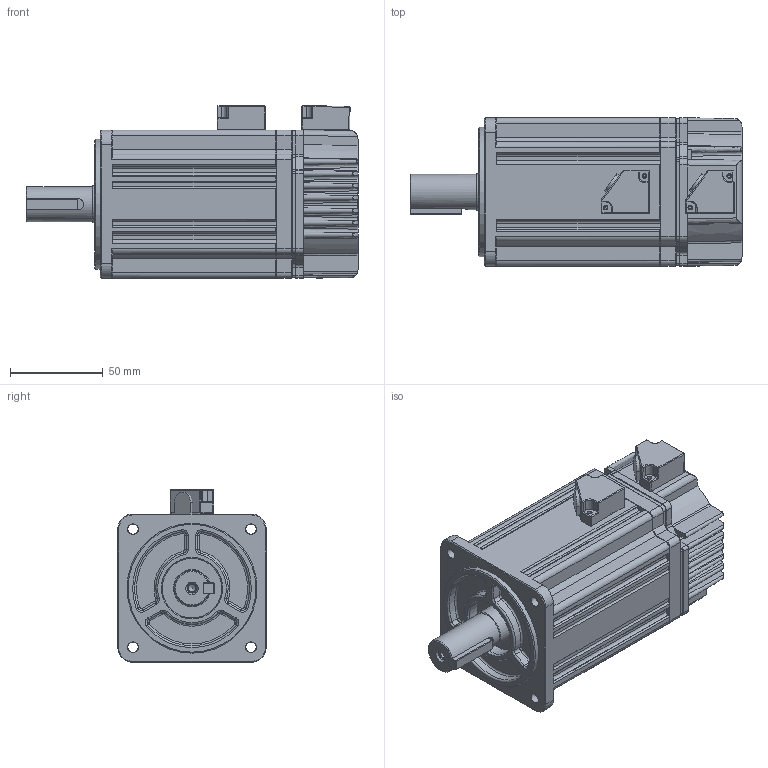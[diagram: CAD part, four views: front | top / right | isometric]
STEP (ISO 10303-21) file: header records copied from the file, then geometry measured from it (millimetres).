
FILE_DESCRIPTION( ( 'Unknown' ), '1' );
FILE_NAME( 'C:/Documents and Settings/leon/桌面/工作資料/3D型錄相關/3D組立圖(給子勤)/要寄的壓縮檔/KM無煞車機種/stp/DTSC08751C3NGUD0K.stp', 'Unknown', ( 'Unknown' ), ( 'Unknown' ), 'PSStep 14.0', 'Unknown', ' ' );
FILE_SCHEMA( ( 'AUTOMOTIVE_DESIGN { 1 0 10303 214 1 1 1 1 }' ) );
Length unit declared in the file: millimetre
Products named in the file (14): 0S140H1203422-03; 0S152W6A15H01-00-oa1; 0S200HS00000F-00; 0S211HS00000F-01; 0S100HS0C0121-03; 0S301H0A0BP01-05; 0S871WHPPCN20-02-oa0; Assem1; 0S152W6A15H01-00; 0S302H0A0B101-01; 0S362H8035PB1-01; 0S8618B022211-02; 0S871WHPPCN20-02; 0Y204E0628001-00
Assembly tree (13 placements, depth 4):
  Assem1
    0S152W6A15H01-00
    0S302H0A0B101-01
    0S362H8035PB1-01
    0S8618B022211-02
    0S871WHPPCN20-02
    0Y204E0628001-00
    0S100HS0C0121-03
      0S301H0A0BP01-05
      0S871WHPPCN20-02-oa0
      0S140H1203422-03
        0S152W6A15H01-00-oa1
    0S200HS00000F-00
      0S211HS00000F-01
Bounding box: 179 x 80 x 93.17 mm (x, y, z)
Volume: 816500.5 mm3; surface area: 112761.4 mm2
Topology: 10 solids, 10 shells, 854 faces, 2210 edges, 1374 vertices
Faces by surface type: plane 364, cylinder 267, cone 92, bspline 73, torus 40, sphere 18
Full cylindrical faces by diameter (mm): 1.567 x4, 2.013 x1, 2.2 x2, 2.3 x2, 2.5 x4, 3.242 x12, 3.5 x4, 4.134 x1, 5 x4, 5.2 x1, 5.5 x4, 19 x1, 20 x1, 32.05 x1, 70 x1, 76.5 x1
Entity records: 37072 total; most frequent: CARTESIAN_POINT 10003, ORIENTED_EDGE 4166, DIRECTION 4122, EDGE_CURVE 2083, AXIS2_PLACEMENT_3D 1544, VERTEX_POINT 1336, LINE 1034, VECTOR 1034
